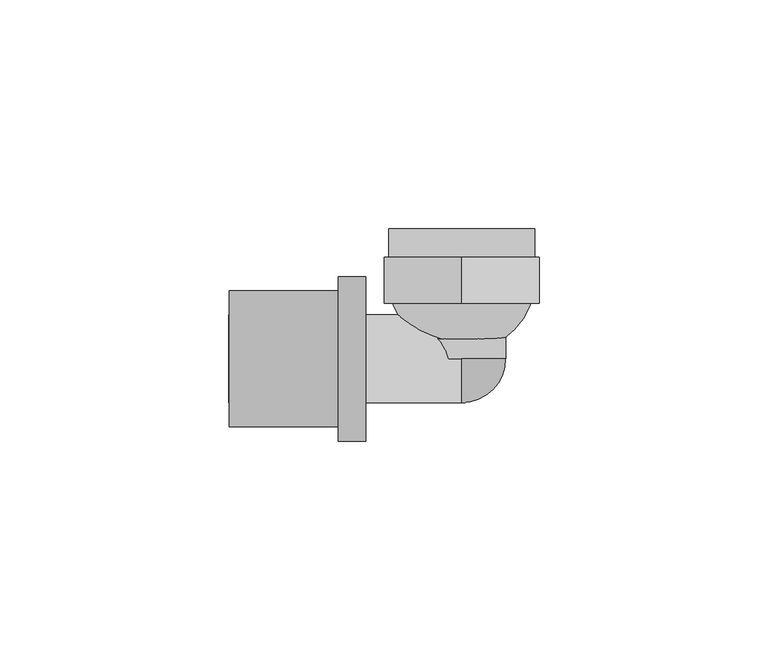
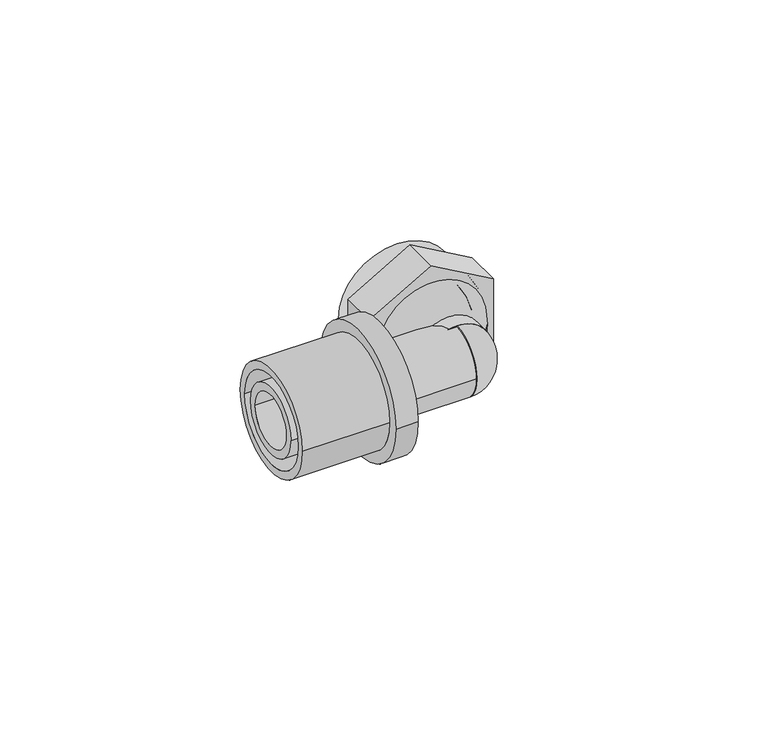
"""IFC4 building model written with IfcOpenShell, lengths in millimetres: pipe fitting geometry, FASTLOC_Elbow with female thread EX+ : FSL A internal AT."""

from ifc_helpers import new_model, si_unit, point, frame, origin, origin_2d, place, context, project, spatial, polyline, circle_curve, ellipse_curve, trimmed, segment, composite_curve, outline, extrude, source, transform, mapped, element, save
from ifc_brep_helpers import plane_surface, cylinder_surface, revolved_surface, advanced_brep


def pipe_fitting_6c2c1df7(model_context):
    return source(origin(), model_context, "Body", "SolidModel", [
        advanced_brep(
        [(-27.0, -18.0, 0.0), (-27.0, 18.0, 0.0), (-21.0, 18.0, 0.0), (-21.0, -18.0, 0.0), (-50.8, -14.85, 0.0), (-50.8, 14.85, 0.0), (-27.0, 14.85, 0.0), (-27.0, -14.85, 0.0), (-21.0, -12.65, 0.0), (-21.0, 12.65, 0.0), (-50.8, 12.65, 0.0), (-50.8, -12.65, 0.0)],
        [
            (0, 1, circle_curve(frame((-27.0, 0.0, 0.0), z_axis=(1.0, 0.0, 0.0), x_axis=(0.0, 1.0, 0.0)), 18.0)),
            (1, 2),
            (2, 3, circle_curve(frame((-21.0, 0.0, 0.0), z_axis=(-1.0, 0.0, 0.0), x_axis=(0.0, 1.0, 0.0)), 18.0)),
            (3, 0),
            (4, 5, circle_curve(frame((-50.8, 0.0, 0.0), z_axis=(1.0, 0.0, 0.0), x_axis=(0.0, 1.0, 0.0)), 14.85)),
            (5, 6),
            (6, 7, circle_curve(frame((-27.0, 0.0, 0.0), z_axis=(-1.0, 0.0, 0.0), x_axis=(0.0, 1.0, 0.0)), 14.85)),
            (7, 4),
            (8, 9, circle_curve(frame((-21.0, 0.0, 0.0), z_axis=(1.0, 0.0, 0.0), x_axis=(0.0, 1.0, 0.0)), 12.65)),
            (9, 10),
            (10, 11, circle_curve(frame((-50.8, 0.0, 0.0), z_axis=(-1.0, 0.0, 0.0), x_axis=(0.0, 1.0, 0.0)), 12.65)),
            (11, 8),
            (1, 0, circle_curve(frame((-27.0, 0.0, 0.0), z_axis=(1.0, 0.0, 0.0), x_axis=(0.0, -1.0, 0.0)), 18.0)),
            (3, 2, circle_curve(frame((-21.0, 0.0, 0.0), z_axis=(-1.0, 0.0, 0.0), x_axis=(0.0, -1.0, 0.0)), 18.0)),
            (6, 7, circle_curve(frame((-27.0, 0.0, 0.0), z_axis=(1.0, 0.0, 0.0), x_axis=(0.0, -1.0, 0.0)), 14.85)),
            (5, 4, circle_curve(frame((-50.8, 0.0, 0.0), z_axis=(1.0, 0.0, 0.0), x_axis=(0.0, -1.0, 0.0)), 14.85)),
            (10, 11, circle_curve(frame((-50.8, 0.0, 0.0), z_axis=(1.0, 0.0, 0.0), x_axis=(0.0, -1.0, 0.0)), 12.65)),
            (9, 8, circle_curve(frame((-21.0, 0.0, 0.0), z_axis=(1.0, 0.0, 0.0), x_axis=(0.0, -1.0, 0.0)), 12.65)),
        ],
        [
            cylinder_surface(frame((-21.0, 0.0, 0.0), z_axis=(-1.0, 0.0, 0.0), x_axis=(0.0, 1.0, 0.0)), 18.0),
            cylinder_surface(frame((-21.0, 0.0, 0.0), z_axis=(-1.0, 0.0, 0.0), x_axis=(0.0, 1.0, 0.0)), 14.85),
            revolved_surface(polyline([(-50.8, 12.65, 0.0), (-21.0, 12.65, 0.0)]), (-21.0, 0.0, 0.0), (-1.0, 0.0, 0.0)),
            cylinder_surface(frame((-21.0, 0.0, 0.0), z_axis=(-1.0, 0.0, 0.0), x_axis=(0.0, -1.0, 0.0)), 18.0),
            plane_surface(frame((-27.0, 0.0, 0.0), z_axis=(-1.0, 0.0, 0.0), x_axis=(0.0, -1.0, 0.0))),
            cylinder_surface(frame((-21.0, 0.0, 0.0), z_axis=(-1.0, 0.0, 0.0), x_axis=(0.0, -1.0, 0.0)), 14.85),
            plane_surface(frame((-50.8, 0.0, 0.0), z_axis=(-1.0, 0.0, 0.0), x_axis=(0.0, -1.0, 0.0))),
            revolved_surface(polyline([(-50.8, -12.65, 0.0), (-21.0, -12.65, 0.0)]), (-21.0, 0.0, 0.0), (-1.0, 0.0, 0.0)),
            plane_surface(frame((-21.0, 0.0, 0.0), z_axis=(1.0, 0.0, 0.0), x_axis=(0.0, -1.0, 0.0))),
        ],
        [
            (0, [[1, 2, 3, 4]]),
            (1, [[5, 6, 7, 8]]),
            (2, [[9, 10, 11, 12]]),
            (3, [[13, -4, 14, -2]]),
            (4, [[-13, -1], [15, -7]]),
            (5, [[16, -8, -15, -6]]),
            (6, [[-16, -5], [17, -11]]),
            (7, [[18, -12, -17, -10]]),
            (8, [[-14, -3], [-18, -9]]),
        ],
    ),
        advanced_brep(
        [(0.0, 0.0, 9.6), (0.0, 0.0, 4.8), (0.0, -4.8, 0.0), (0.0, -9.6, 0.0), (0.0, 0.0, -9.6), (0.0, 0.0, -4.8)],
        [
            (0, 1),
            (1, 2, circle_curve(frame((0.0, 0.0, 0.0), z_axis=(1.0, 0.0, 0.0), x_axis=(0.0, 0.0, 1.0)), 4.8)),
            (2, 3),
            (3, 0, circle_curve(frame((0.0, 0.0, 0.0), z_axis=(-1.0, 0.0, 0.0), x_axis=(0.0, 0.0, 1.0)), 9.6)),
            (4, 3, circle_curve(frame((0.0, 0.0, 0.0), z_axis=(-1.0, 0.0, 0.0), x_axis=(0.0, 0.0, -1.0)), 9.6)),
            (2, 5, circle_curve(frame((0.0, 0.0, 0.0), z_axis=(1.0, 0.0, 0.0), x_axis=(0.0, 0.0, -1.0)), 4.8)),
            (5, 4),
            (5, 1, circle_curve(frame((0.0, 0.0, 0.0), z_axis=(0.0, -1.0, 0.0), x_axis=(0.0, 0.0, 1.0)), 4.8)),
            (0, 4, circle_curve(frame((0.0, 0.0, 0.0), z_axis=(0.0, 1.0, 0.0), x_axis=(0.0, 0.0, 1.0)), 9.6)),
        ],
        [
            plane_surface(frame((0.0, 0.0, 0.0), z_axis=(-1.0, 0.0, 0.0), x_axis=(0.0, 0.0, 1.0))),
            plane_surface(frame((0.0, 0.0, 0.0), z_axis=(-1.0, 0.0, 0.0), x_axis=(0.0, 0.0, -1.0))),
            plane_surface(frame((0.0, 0.0, 0.0), z_axis=(0.0, 1.0, 0.0), x_axis=(0.0, 0.0, 1.0))),
            revolved_surface(trimmed(ellipse_curve(frame((0.0, 0.0, 0.0), z_axis=(1.0, 0.0, 0.0), x_axis=(0.0, 0.0, 1.0)), 4.8, 4.8), [point((0.0, 0.0, 4.8))], [point((0.0, -4.8, 0.0))], True, "CARTESIAN"), (0.0, 0.0, 0.0), (0.0, 1.0, 0.0)),
            revolved_surface(trimmed(ellipse_curve(frame((0.0, 0.0, 0.0), z_axis=(-1.0, 0.0, 0.0), x_axis=(0.0, 0.0, 1.0)), 9.6, 9.6), [point((0.0, -9.6, 0.0))], [point((0.0, 0.0, 9.6))], True, "CARTESIAN"), (0.0, 0.0, 0.0), (0.0, 1.0, 0.0)),
        ],
        [
            (0, [[1, 2, 3, 4]]),
            (1, [[5, -3, 6, 7]]),
            (2, [[8, -1, 9, -7]]),
            (3, [[-2, -8, -6]]),
            (4, [[-9, -4, -5]]),
        ],
    ),
        extrude(outline(polyline([(-9.8149546, 17.0), (9.8149546, 17.0), (19.6299092, 0.0), (9.8149546, -17.0), (-9.8149546, -17.0), (-19.6299092, 0.0), (-9.8149546, 17.0)])), frame((0.0, 12.2, 0.0), z_axis=(0.0, 1.0, 0.0), x_axis=(0.0, 0.0, 1.0)), (0.0, 0.0, 1.0), 10.0),
        advanced_brep(
        [(0.5, 1.5078144, 0.0), (-0.5, 1.5078144, 0.0), (-16.0, 17.5, 0.0), (16.0, 17.5, 0.0), (0.5, 5.010004, 0.0), (-0.5, 5.010004, 0.0), (12.5, 17.5, 0.0), (-12.5, 17.5, 0.0), (12.5, 28.5, 0.0), (-12.5, 28.5, 0.0), (-16.0, 28.5, 0.0), (16.0, 28.5, 0.0)],
        [
            (0, 1, circle_curve(frame((0.0, 1.5078144, 0.0), z_axis=(0.0, 1.0, 0.0), x_axis=(-1.0, 0.0, 0.0)), 0.5)),
            (1, 2, circle_curve(frame((0.0, 17.5, 0.0), z_axis=(0.0, 0.0, -1.0), x_axis=(0.0, 1.0, 0.0)), 16.0)),
            (2, 3, circle_curve(frame((0.0, 17.5, 0.0), z_axis=(0.0, -1.0, 0.0), x_axis=(-1.0, 0.0, 0.0)), 16.0)),
            (3, 0, circle_curve(frame((0.0, 17.5, 0.0), z_axis=(0.0, 0.0, -1.0), x_axis=(0.0, 1.0, 0.0)), 16.0)),
            (4, 5, circle_curve(frame((0.0, 5.010004, 0.0), z_axis=(0.0, 1.0, 0.0), x_axis=(-1.0, 0.0, 0.0)), 0.5)),
            (5, 1),
            (0, 4),
            (6, 7, circle_curve(frame((0.0, 17.5, 0.0), z_axis=(0.0, 1.0, 0.0), x_axis=(-1.0, 0.0, 0.0)), 12.5)),
            (7, 5, circle_curve(frame((0.0, 17.5, 0.0), z_axis=(0.0, 0.0, 1.0), x_axis=(0.0, 1.0, 0.0)), 12.5)),
            (4, 6, circle_curve(frame((0.0, 17.5, 0.0), z_axis=(0.0, 0.0, 1.0), x_axis=(0.0, 1.0, 0.0)), 12.5)),
            (8, 9, circle_curve(frame((0.0, 28.5, 0.0), z_axis=(0.0, 1.0, 0.0), x_axis=(-1.0, 0.0, 0.0)), 12.5)),
            (9, 7),
            (6, 8),
            (2, 10),
            (10, 11, circle_curve(frame((0.0, 28.5, 0.0), z_axis=(0.0, -1.0, 0.0), x_axis=(-1.0, 0.0, 0.0)), 16.0)),
            (11, 3),
            (1, 0, circle_curve(frame((0.0, 1.5078144, 0.0), z_axis=(0.0, 1.0, 0.0), x_axis=(1.0, 0.0, 0.0)), 0.5)),
            (3, 2, circle_curve(frame((0.0, 17.5, 0.0), z_axis=(0.0, -1.0, 0.0), x_axis=(1.0, 0.0, 0.0)), 16.0)),
            (5, 4, circle_curve(frame((0.0, 5.010004, 0.0), z_axis=(0.0, 1.0, 0.0), x_axis=(1.0, 0.0, 0.0)), 0.5)),
            (7, 6, circle_curve(frame((0.0, 17.5, 0.0), z_axis=(0.0, 1.0, 0.0), x_axis=(1.0, 0.0, 0.0)), 12.5)),
            (9, 8, circle_curve(frame((0.0, 28.5, 0.0), z_axis=(0.0, 1.0, 0.0), x_axis=(1.0, 0.0, 0.0)), 12.5)),
            (10, 11, circle_curve(frame((0.0, 28.5, 0.0), z_axis=(0.0, 1.0, 0.0), x_axis=(1.0, 0.0, 0.0)), 16.0)),
        ],
        [
            revolved_surface(trimmed(ellipse_curve(frame((0.0, 17.5, 0.0), z_axis=(0.0, 0.0, 1.0), x_axis=(0.0, 1.0, 0.0)), 16.0, 16.0), [point((-16.0, 17.5, 0.0))], [point((-0.5, 1.5078144, 0.0))], True, "CARTESIAN"), (0.0, 12.2, 0.0), (0.0, -1.0, 0.0)),
            revolved_surface(polyline([(-0.5, 1.5078144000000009, 0.0), (-0.5, 5.010004, 0.0)]), (0.0, 12.2, 0.0), (0.0, -1.0, 0.0)),
            revolved_surface(trimmed(ellipse_curve(frame((0.0, 17.5, 0.0), z_axis=(0.0, 0.0, -1.0), x_axis=(0.0, 1.0, 0.0)), 12.5, 12.5), [point((-0.5, 5.010004, 0.0))], [point((-12.5, 17.5, 0.0))], True, "CARTESIAN"), (0.0, 12.2, 0.0), (0.0, -1.0, 0.0)),
            revolved_surface(polyline([(-12.5, 17.5, 0.0), (-12.5, 28.5, 0.0)]), (0.0, 12.2, 0.0), (0.0, -1.0, 0.0)),
            cylinder_surface(frame((0.0, 12.2, 0.0), z_axis=(0.0, -1.0, 0.0), x_axis=(-1.0, 0.0, 0.0)), 16.0),
            revolved_surface(trimmed(ellipse_curve(frame((0.0, 17.5, 0.0), z_axis=(0.0, 0.0, -1.0), x_axis=(0.0, 1.0, 0.0)), 16.0, 16.0), [point((16.0, 17.5, 0.0))], [point((0.5, 1.5078144, 0.0))], True, "CARTESIAN"), (0.0, 12.2, 0.0), (0.0, -1.0, 0.0)),
            revolved_surface(polyline([(0.5, 1.5078144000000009, 0.0), (0.5, 5.010004, 0.0)]), (0.0, 12.2, 0.0), (0.0, -1.0, 0.0)),
            revolved_surface(trimmed(ellipse_curve(frame((0.0, 17.5, 0.0), z_axis=(0.0, 0.0, 1.0), x_axis=(0.0, 1.0, 0.0)), 12.5, 12.5), [point((0.5, 5.010004, 0.0))], [point((12.5, 17.5, 0.0))], True, "CARTESIAN"), (0.0, 12.2, 0.0), (0.0, -1.0, 0.0)),
            revolved_surface(polyline([(12.5, 17.5, 0.0), (12.5, 28.5, 0.0)]), (0.0, 12.2, 0.0), (0.0, -1.0, 0.0)),
            plane_surface(frame((0.0, 28.5, 0.0), z_axis=(0.0, 1.0, 0.0), x_axis=(1.0, 0.0, 0.0))),
            cylinder_surface(frame((0.0, 12.2, 0.0), z_axis=(0.0, -1.0, 0.0), x_axis=(1.0, 0.0, 0.0)), 16.0),
        ],
        [
            (0, [[1, 2, 3, 4]]),
            (1, [[5, 6, -1, 7]]),
            (2, [[8, 9, -5, 10]]),
            (3, [[11, 12, -8, 13]]),
            (4, [[-3, 14, 15, 16]]),
            (5, [[17, -4, 18, -2]]),
            (6, [[19, -7, -17, -6]]),
            (7, [[20, -10, -19, -9]]),
            (8, [[21, -13, -20, -12]]),
            (9, [[22, -15], [-21, -11]]),
            (10, [[-18, -16, -22, -14]]),
        ],
    ),
        extrude(outline(composite_curve([segment(trimmed(circle_curve(origin_2d(), 9.6), [point((0.0, -9.6))], [point((0.0, 9.6))], False, "CARTESIAN"), True, "CONTINUOUS"), segment(trimmed(circle_curve(origin_2d(), 9.6), [point((0.0, 9.6))], [point((0.0, -9.6))], False, "CARTESIAN"), True, "CONTINUOUS")], self_intersect=False), holes=[composite_curve([segment(trimmed(circle_curve(origin_2d(), 7.35), [point((0.0, -7.35))], [point((0.0, 7.35))], True, "CARTESIAN"), True, "CONTINUOUS"), segment(trimmed(circle_curve(origin_2d(), 7.35), [point((0.0, 7.35))], [point((0.0, -7.35))], True, "CARTESIAN"), True, "CONTINUOUS")], self_intersect=False)]), frame((0.0, 0.0, 0.0), z_axis=(0.0, 1.0, 0.0), x_axis=(0.0, 0.0, 1.0)), (0.0, 0.0, 1.0), 12.2),
        advanced_brep(
        [(-27.0, 9.6, 0.0), (-27.0, -9.6, 0.0), (-51.0, -9.6, 0.0), (-51.0, 9.6, 0.0), (-24.2, 11.1, 0.0), (-24.2, -11.1, 0.0), (-27.0, -11.1, 0.0), (-27.0, 11.1, 0.0), (0.0, 9.6, 0.0), (0.0, -9.6, 0.0), (-24.2, -9.6, 0.0), (-24.2, 9.6, 0.0), (-51.0, 7.35, 0.0), (-51.0, -7.35, 0.0), (0.0, -7.35, 0.0), (0.0, 7.35, 0.0)],
        [
            (0, 1, circle_curve(frame((-27.0, 0.0, 0.0), z_axis=(-1.0, 0.0, 0.0), x_axis=(0.0, -1.0, 0.0)), 9.6)),
            (1, 2),
            (2, 3, circle_curve(frame((-51.0, 0.0, 0.0), z_axis=(1.0, 0.0, 0.0), x_axis=(0.0, -1.0, 0.0)), 9.6)),
            (3, 0),
            (4, 5, circle_curve(frame((-24.2, 0.0, 0.0), z_axis=(-1.0, 0.0, 0.0), x_axis=(0.0, -1.0, 0.0)), 11.1)),
            (5, 6),
            (6, 7, circle_curve(frame((-27.0, 0.0, 0.0), z_axis=(1.0, 0.0, 0.0), x_axis=(0.0, -1.0, 0.0)), 11.1)),
            (7, 4),
            (8, 9, circle_curve(frame((0.0, 0.0, 0.0), z_axis=(-1.0, 0.0, 0.0), x_axis=(0.0, -1.0, 0.0)), 9.6)),
            (9, 10),
            (10, 11, circle_curve(frame((-24.2, 0.0, 0.0), z_axis=(1.0, 0.0, 0.0), x_axis=(0.0, -1.0, 0.0)), 9.6)),
            (11, 8),
            (12, 13, circle_curve(frame((-51.0, 0.0, 0.0), z_axis=(-1.0, 0.0, 0.0), x_axis=(0.0, -1.0, 0.0)), 7.35)),
            (13, 14),
            (14, 15, circle_curve(frame((0.0, 0.0, 0.0), z_axis=(1.0, 0.0, 0.0), x_axis=(0.0, -1.0, 0.0)), 7.35)),
            (15, 12),
            (2, 3, circle_curve(frame((-51.0, 0.0, 0.0), z_axis=(-1.0, 0.0, 0.0), x_axis=(0.0, 1.0, 0.0)), 9.6)),
            (12, 13, circle_curve(frame((-51.0, 0.0, 0.0), z_axis=(1.0, 0.0, 0.0), x_axis=(0.0, 1.0, 0.0)), 7.35)),
            (1, 0, circle_curve(frame((-27.0, 0.0, 0.0), z_axis=(-1.0, 0.0, 0.0), x_axis=(0.0, 1.0, 0.0)), 9.6)),
            (6, 7, circle_curve(frame((-27.0, 0.0, 0.0), z_axis=(-1.0, 0.0, 0.0), x_axis=(0.0, 1.0, 0.0)), 11.1)),
            (5, 4, circle_curve(frame((-24.2, 0.0, 0.0), z_axis=(-1.0, 0.0, 0.0), x_axis=(0.0, 1.0, 0.0)), 11.1)),
            (10, 11, circle_curve(frame((-24.2, 0.0, 0.0), z_axis=(-1.0, 0.0, 0.0), x_axis=(0.0, 1.0, 0.0)), 9.6)),
            (9, 8, circle_curve(frame((0.0, 0.0, 0.0), z_axis=(-1.0, 0.0, 0.0), x_axis=(0.0, 1.0, 0.0)), 9.6)),
            (14, 15, circle_curve(frame((0.0, 0.0, 0.0), z_axis=(-1.0, 0.0, 0.0), x_axis=(0.0, 1.0, 0.0)), 7.35)),
        ],
        [
            cylinder_surface(frame((0.0, 0.0, 0.0), z_axis=(1.0, 0.0, 0.0), x_axis=(0.0, -1.0, 0.0)), 9.6),
            cylinder_surface(frame((0.0, 0.0, 0.0), z_axis=(1.0, 0.0, 0.0), x_axis=(0.0, -1.0, 0.0)), 11.1),
            revolved_surface(polyline([(0.0, -7.35, 0.0), (-51.0, -7.35, 0.0)]), (0.0, 0.0, 0.0), (1.0, 0.0, 0.0)),
            plane_surface(frame((-51.0, 0.0, 0.0), z_axis=(-1.0, 0.0, 0.0), x_axis=(0.0, 1.0, 0.0))),
            cylinder_surface(frame((0.0, 0.0, 0.0), z_axis=(1.0, 0.0, 0.0), x_axis=(0.0, 1.0, 0.0)), 9.6),
            plane_surface(frame((-27.0, 0.0, 0.0), z_axis=(-1.0, 0.0, 0.0), x_axis=(0.0, 1.0, 0.0))),
            cylinder_surface(frame((0.0, 0.0, 0.0), z_axis=(1.0, 0.0, 0.0), x_axis=(0.0, 1.0, 0.0)), 11.1),
            plane_surface(frame((-24.2, 0.0, 0.0), z_axis=(1.0, 0.0, 0.0), x_axis=(0.0, 1.0, 0.0))),
            plane_surface(frame((0.0, 0.0, 0.0), z_axis=(1.0, 0.0, 0.0), x_axis=(0.0, 1.0, 0.0))),
            revolved_surface(polyline([(0.0, 7.35, 0.0), (-51.0, 7.35, 0.0)]), (0.0, 0.0, 0.0), (1.0, 0.0, 0.0)),
        ],
        [
            (0, [[1, 2, 3, 4]]),
            (1, [[5, 6, 7, 8]]),
            (0, [[9, 10, 11, 12]]),
            (2, [[13, 14, 15, 16]]),
            (3, [[17, -3], [18, -13]]),
            (4, [[19, -4, -17, -2]]),
            (5, [[20, -7], [-19, -1]]),
            (6, [[21, -8, -20, -6]]),
            (7, [[-21, -5], [22, -11]]),
            (4, [[23, -12, -22, -10]]),
            (8, [[-23, -9], [24, -15]]),
            (9, [[-18, -16, -24, -14]]),
        ],
    ),
    ])


if __name__ == "__main__":
    model = new_model("IFC4")
    model_context = context("Model", 3, world=origin())
    ifc_project = project(units=[si_unit("LENGTHUNIT", "METRE", prefix="MILLI")], contexts=[model_context])
    site = spatial("IfcSite", under=ifc_project)
    building = spatial("IfcBuilding", under=site)
    placement = place(None, origin())
    pipe_fitting_shape = pipe_fitting_6c2c1df7(model_context)
    element("IfcPipeFitting", 1, ObjectType="FASTLOC_Elbow with female thread EX+ : FSL A internal AT", at=placement, inside=building, context=model_context, shape_type="MappedRepresentation", body=[
        mapped(pipe_fitting_shape, transform((0.0, 0.0, 0.0), x_axis=(1.0, 0.0, 0.0), y_axis=(0.0, 1.0, 0.0), z_axis=(0.0, 0.0, 1.0))),
    ])
    save(model, "model.ifc")
